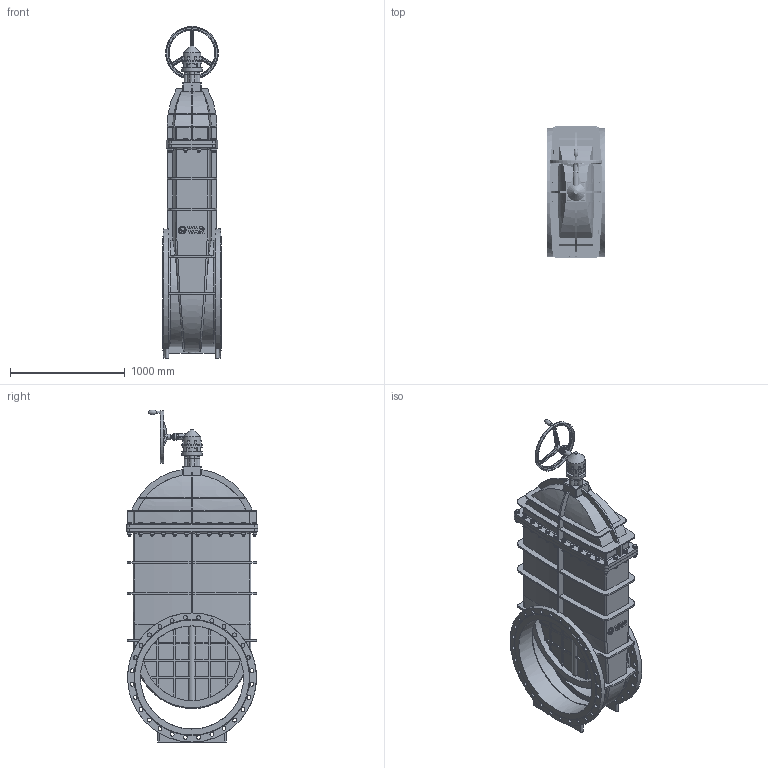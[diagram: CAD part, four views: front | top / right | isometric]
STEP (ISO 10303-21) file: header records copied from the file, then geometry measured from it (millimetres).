
FILE_DESCRIPTION(('STEP AP242'), '1');
FILE_NAME('青溻桄赅', '', ('UNSPECIFIED'), ('UNSPECIFIED'), 'C3D Converter', 'C3D Toolkit', '');
FILE_SCHEMA(('AP242_MANAGED_MODEL_BASED_3D_ENGINEERING_MIM_LF { 1 0 10303 442 1 1 4 }'));
Length unit declared in the file: millimetre
Assembly tree (195 placements, depth 2):
  (unnamed)
    (unnamed)
    (unnamed)
    (unnamed)
    (unnamed)  x2
    (unnamed)
    (unnamed)
    (unnamed)
    (unnamed)
    (unnamed)
    (unnamed)  x28
    (unnamed)  x56
    (unnamed)  x56
    (unnamed)  x28
    (unnamed)
    (unnamed)  x12
    (unnamed)  x4
Bounding box: 510 x 1145.5 x 2894.32 mm (x, y, z)
Volume: 172281774.8 mm3; surface area: 19566150.3 mm2
Topology: 200 solids, 201 shells, 3429 faces, 7904 edges, 4967 vertices
Faces by surface type: plane 1917, cylinder 769, cone 408, extrusion 171, torus 86, bspline 78
Full cylindrical faces by diameter (mm): 5 x12, 6 x39, 10 x16, 12 x20, 17.294 x28, 18 x8, 20 x33, 22 x140, 30 x28, 34 x121, 40 x1, 50 x1, 60 x2, 65 x5, 67.745 x1, 68 x1, 135.596 x2, 155.031 x1, 174.467 x3, 400 x1, 410 x1, 450 x1, 460 x1, 853.5 x2, 900 x4, 955.8 x4, 993 x1, 1125 x2
Entity records: 77491 total; most frequent: CARTESIAN_POINT 32941, ORIENTED_EDGE 7522, DIRECTION 7224, EDGE_CURVE 3766, VERTEX_POINT 2627, AXIS2_PLACEMENT_3D 2599, EDGE_LOOP 2250, VECTOR 2026
